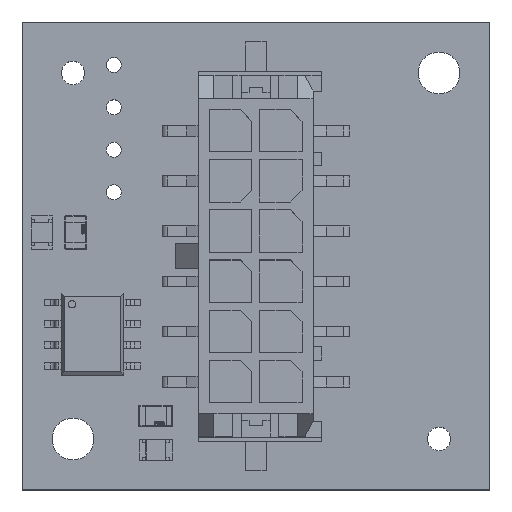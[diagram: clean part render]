
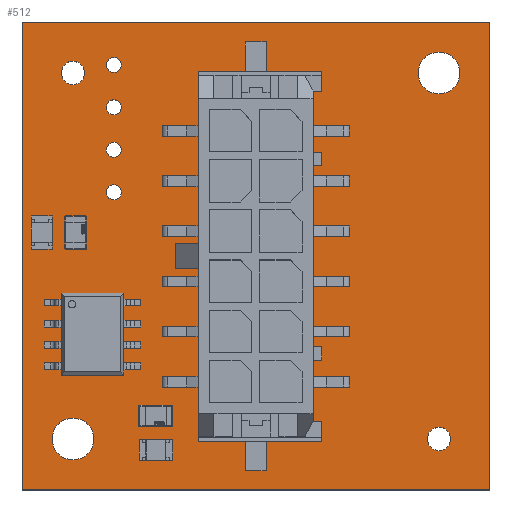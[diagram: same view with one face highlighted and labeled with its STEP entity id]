
A CAD part, top view. The second image highlights one B-rep face of the part: STEP entity #512.
In plain terms, the highlighted planar face has unit normal (0, 0, 1).
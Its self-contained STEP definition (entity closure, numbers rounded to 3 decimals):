
#95 = VERTEX_POINT('',#96);
#96 = CARTESIAN_POINT('',(-11.054,-1.478,0.));
#102 = EDGE_CURVE('',#95,#103,#105,.T.);
#103 = VERTEX_POINT('',#104);
#104 = CARTESIAN_POINT('',(16.946,-1.478,0.));
#105 = LINE('',#106,#107);
#106 = CARTESIAN_POINT('',(-11.054,-1.478,0.));
#107 = VECTOR('',#108,1.);
#108 = DIRECTION('',(1.,0.,0.));
#133 = EDGE_CURVE('',#103,#134,#136,.T.);
#134 = VERTEX_POINT('',#135);
#135 = CARTESIAN_POINT('',(16.946,26.522,0.));
#136 = LINE('',#137,#138);
#137 = CARTESIAN_POINT('',(16.946,-1.478,0.));
#138 = VECTOR('',#139,1.);
#139 = DIRECTION('',(0.,1.,0.));
#164 = EDGE_CURVE('',#134,#165,#167,.T.);
#165 = VERTEX_POINT('',#166);
#166 = CARTESIAN_POINT('',(-11.054,26.522,0.));
#167 = LINE('',#168,#169);
#168 = CARTESIAN_POINT('',(16.946,26.522,0.));
#169 = VECTOR('',#170,1.);
#170 = DIRECTION('',(-1.,0.,0.));
#195 = EDGE_CURVE('',#165,#95,#196,.T.);
#196 = LINE('',#197,#198);
#197 = CARTESIAN_POINT('',(-11.054,26.522,0.));
#198 = VECTOR('',#199,1.);
#199 = DIRECTION('',(0.,-1.,0.));
#219 = VERTEX_POINT('',#220);
#220 = CARTESIAN_POINT('',(-6.754,1.572,0.));
#226 = EDGE_CURVE('',#219,#219,#227,.T.);
#227 = CIRCLE('',#228,1.25);
#228 = AXIS2_PLACEMENT_3D('',#229,#230,#231);
#229 = CARTESIAN_POINT('',(-8.004,1.572,0.));
#230 = DIRECTION('',(0.,0.,1.));
#231 = DIRECTION('',(1.,0.,0.));
#252 = VERTEX_POINT('',#253);
#253 = CARTESIAN_POINT('',(-5.113,16.332,0.));
#259 = EDGE_CURVE('',#252,#252,#260,.T.);
#260 = CIRCLE('',#261,0.45);
#261 = AXIS2_PLACEMENT_3D('',#262,#263,#264);
#262 = CARTESIAN_POINT('',(-5.563,16.332,0.));
#263 = DIRECTION('',(0.,0.,1.));
#264 = DIRECTION('',(1.,0.,0.));
#285 = VERTEX_POINT('',#286);
#286 = CARTESIAN_POINT('',(-7.304,23.472,0.));
#292 = EDGE_CURVE('',#285,#285,#293,.T.);
#293 = CIRCLE('',#294,0.7);
#294 = AXIS2_PLACEMENT_3D('',#295,#296,#297);
#295 = CARTESIAN_POINT('',(-8.004,23.472,0.));
#296 = DIRECTION('',(0.,0.,1.));
#297 = DIRECTION('',(1.,0.,0.));
#318 = VERTEX_POINT('',#319);
#319 = CARTESIAN_POINT('',(-5.113,18.872,0.));
#325 = EDGE_CURVE('',#318,#318,#326,.T.);
#326 = CIRCLE('',#327,0.45);
#327 = AXIS2_PLACEMENT_3D('',#328,#329,#330);
#328 = CARTESIAN_POINT('',(-5.563,18.872,0.));
#329 = DIRECTION('',(0.,0.,1.));
#330 = DIRECTION('',(1.,0.,0.));
#351 = VERTEX_POINT('',#352);
#352 = CARTESIAN_POINT('',(-5.113,21.412,0.));
#358 = EDGE_CURVE('',#351,#351,#359,.T.);
#359 = CIRCLE('',#360,0.45);
#360 = AXIS2_PLACEMENT_3D('',#361,#362,#363);
#361 = CARTESIAN_POINT('',(-5.563,21.412,0.));
#362 = DIRECTION('',(0.,0.,1.));
#363 = DIRECTION('',(1.,0.,0.));
#384 = VERTEX_POINT('',#385);
#385 = CARTESIAN_POINT('',(14.596,1.572,0.));
#391 = EDGE_CURVE('',#384,#384,#392,.T.);
#392 = CIRCLE('',#393,0.7);
#393 = AXIS2_PLACEMENT_3D('',#394,#395,#396);
#394 = CARTESIAN_POINT('',(13.896,1.572,0.));
#395 = DIRECTION('',(0.,0.,1.));
#396 = DIRECTION('',(1.,0.,0.));
#417 = VERTEX_POINT('',#418);
#418 = CARTESIAN_POINT('',(-5.113,23.952,0.));
#424 = EDGE_CURVE('',#417,#417,#425,.T.);
#425 = CIRCLE('',#426,0.45);
#426 = AXIS2_PLACEMENT_3D('',#427,#428,#429);
#427 = CARTESIAN_POINT('',(-5.563,23.952,0.));
#428 = DIRECTION('',(0.,0.,1.));
#429 = DIRECTION('',(1.,0.,0.));
#450 = VERTEX_POINT('',#451);
#451 = CARTESIAN_POINT('',(15.146,23.472,0.));
#457 = EDGE_CURVE('',#450,#450,#458,.T.);
#458 = CIRCLE('',#459,1.25);
#459 = AXIS2_PLACEMENT_3D('',#460,#461,#462);
#460 = CARTESIAN_POINT('',(13.896,23.472,0.));
#461 = DIRECTION('',(0.,0.,1.));
#462 = DIRECTION('',(1.,0.,0.));
#512 = ADVANCED_FACE('',(#513,#519,#522,#525,#528,#531,#534,#537,#540),
  #543,.F.);
#513 = FACE_BOUND('',#514,.T.);
#514 = EDGE_LOOP('',(#515,#516,#517,#518));
#515 = ORIENTED_EDGE('',*,*,#102,.T.);
#516 = ORIENTED_EDGE('',*,*,#133,.T.);
#517 = ORIENTED_EDGE('',*,*,#164,.T.);
#518 = ORIENTED_EDGE('',*,*,#195,.T.);
#519 = FACE_BOUND('',#520,.F.);
#520 = EDGE_LOOP('',(#521));
#521 = ORIENTED_EDGE('',*,*,#226,.T.);
#522 = FACE_BOUND('',#523,.F.);
#523 = EDGE_LOOP('',(#524));
#524 = ORIENTED_EDGE('',*,*,#259,.T.);
#525 = FACE_BOUND('',#526,.F.);
#526 = EDGE_LOOP('',(#527));
#527 = ORIENTED_EDGE('',*,*,#292,.T.);
#528 = FACE_BOUND('',#529,.F.);
#529 = EDGE_LOOP('',(#530));
#530 = ORIENTED_EDGE('',*,*,#325,.T.);
#531 = FACE_BOUND('',#532,.F.);
#532 = EDGE_LOOP('',(#533));
#533 = ORIENTED_EDGE('',*,*,#358,.T.);
#534 = FACE_BOUND('',#535,.F.);
#535 = EDGE_LOOP('',(#536));
#536 = ORIENTED_EDGE('',*,*,#391,.T.);
#537 = FACE_BOUND('',#538,.F.);
#538 = EDGE_LOOP('',(#539));
#539 = ORIENTED_EDGE('',*,*,#424,.T.);
#540 = FACE_BOUND('',#541,.F.);
#541 = EDGE_LOOP('',(#542));
#542 = ORIENTED_EDGE('',*,*,#457,.T.);
#543 = PLANE('',#544);
#544 = AXIS2_PLACEMENT_3D('',#545,#546,#547);
#545 = CARTESIAN_POINT('',(-11.054,-1.478,0.));
#546 = DIRECTION('',(0.,0.,-1.));
#547 = DIRECTION('',(-1.,0.,0.));
